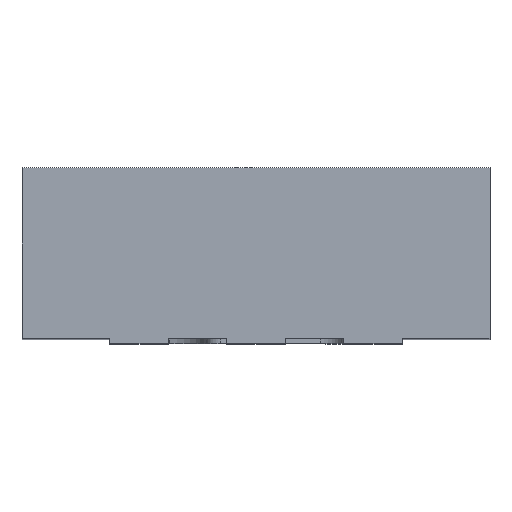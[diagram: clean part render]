
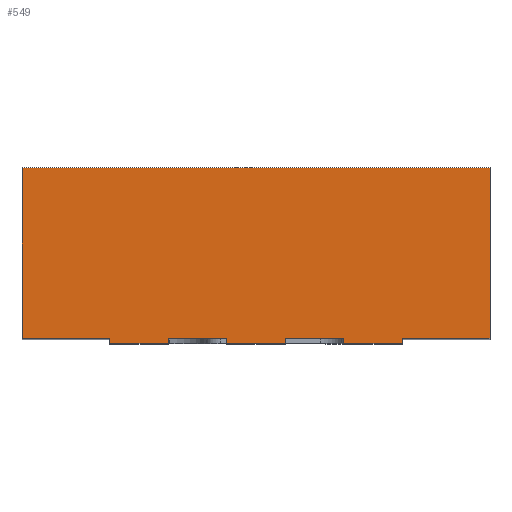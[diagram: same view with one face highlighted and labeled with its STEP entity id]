
A CAD part, top view. The second image highlights one B-rep face of the part: STEP entity #549.
In plain terms, the highlighted planar face has unit normal (0, 0, 1).
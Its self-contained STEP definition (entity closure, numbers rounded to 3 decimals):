
#5 = EDGE_CURVE ( 'NONE', #948, #1021, #486, .T. ) ;
#17 = CARTESIAN_POINT ( 'NONE',  ( 0.375, -0.107, 1.5 ) ) ;
#20 = ORIENTED_EDGE ( 'NONE', *, *, #891, .F. ) ;
#21 = AXIS2_PLACEMENT_3D ( 'NONE', #393, #940, #1361 ) ;
#50 = LINE ( 'NONE', #1126, #636 ) ;
#58 = CARTESIAN_POINT ( 'NONE',  ( 0.125, -0.107, 1.5 ) ) ;
#63 = DIRECTION ( 'NONE',  ( 0., -1., 0. ) ) ;
#76 = PLANE ( 'NONE',  #21 ) ;
#77 = CARTESIAN_POINT ( 'NONE',  ( 0., -0.127, 1.5 ) ) ;
#95 = EDGE_CURVE ( 'NONE', #1185, #790, #1047, .T. ) ;
#109 = LINE ( 'NONE', #638, #783 ) ;
#130 = CARTESIAN_POINT ( 'NONE',  ( 0.625, -0.107, 1.5 ) ) ;
#136 = CARTESIAN_POINT ( 'NONE',  ( -1., -0.107, 1.5 ) ) ;
#148 = CARTESIAN_POINT ( 'NONE',  ( 1., 0.623, 1.5 ) ) ;
#154 = DIRECTION ( 'NONE',  ( 0., -1., 0. ) ) ;
#164 = VECTOR ( 'NONE', #1049, 1000. ) ;
#165 = CARTESIAN_POINT ( 'NONE',  ( -1., 0.623, 1.5 ) ) ;
#167 = EDGE_CURVE ( 'NONE', #498, #203, #216, .T. ) ;
#172 = VECTOR ( 'NONE', #63, 1000. ) ;
#177 = LINE ( 'NONE', #1237, #231 ) ;
#185 = EDGE_CURVE ( 'NONE', #1191, #1282, #1195, .T. ) ;
#186 = LINE ( 'NONE', #824, #823 ) ;
#202 = EDGE_CURVE ( 'NONE', #1021, #242, #872, .T. ) ;
#203 = VERTEX_POINT ( 'NONE', #442 ) ;
#208 = DIRECTION ( 'NONE',  ( 0., -1., 0. ) ) ;
#209 = ORIENTED_EDGE ( 'NONE', *, *, #167, .T. ) ;
#216 = LINE ( 'NONE', #644, #743 ) ;
#221 = EDGE_CURVE ( 'NONE', #1262, #1185, #109, .T. ) ;
#230 = ORIENTED_EDGE ( 'NONE', *, *, #1379, .T. ) ;
#231 = VECTOR ( 'NONE', #507, 1000. ) ;
#242 = VERTEX_POINT ( 'NONE', #540 ) ;
#265 = CARTESIAN_POINT ( 'NONE',  ( 0.625, -0.127, 1.5 ) ) ;
#335 = ORIENTED_EDGE ( 'NONE', *, *, #95, .T. ) ;
#355 = CARTESIAN_POINT ( 'NONE',  ( -1., -0.107, 1.5 ) ) ;
#368 = CARTESIAN_POINT ( 'NONE',  ( 1., 0.623, 1.5 ) ) ;
#382 = DIRECTION ( 'NONE',  ( 1., 0., 0. ) ) ;
#393 = CARTESIAN_POINT ( 'NONE',  ( -1., 0.623, 1.5 ) ) ;
#398 = DIRECTION ( 'NONE',  ( 1., 0., 0. ) ) ;
#409 = ORIENTED_EDGE ( 'NONE', *, *, #221, .T. ) ;
#429 = EDGE_CURVE ( 'NONE', #1282, #1363, #50, .T. ) ;
#435 = VECTOR ( 'NONE', #1384, 1000. ) ;
#438 = VERTEX_POINT ( 'NONE', #130 ) ;
#442 = CARTESIAN_POINT ( 'NONE',  ( 0.375, -0.127, 1.5 ) ) ;
#448 = CARTESIAN_POINT ( 'NONE',  ( -0.125, -0.107, 1.5 ) ) ;
#471 = ORIENTED_EDGE ( 'NONE', *, *, #514, .F. ) ;
#486 = LINE ( 'NONE', #501, #172 ) ;
#487 = EDGE_CURVE ( 'NONE', #1191, #1222, #780, .T. ) ;
#496 = VECTOR ( 'NONE', #602, 1000. ) ;
#498 = VERTEX_POINT ( 'NONE', #17 ) ;
#501 = CARTESIAN_POINT ( 'NONE',  ( -0.625, 0.127, 1.5 ) ) ;
#503 = LINE ( 'NONE', #1344, #496 ) ;
#507 = DIRECTION ( 'NONE',  ( -1., 0., 0. ) ) ;
#514 = EDGE_CURVE ( 'NONE', #1262, #889, #561, .T. ) ;
#540 = CARTESIAN_POINT ( 'NONE',  ( -0.375, -0.127, 1.5 ) ) ;
#549 = ADVANCED_FACE ( 'NONE', ( #924 ), #76, .T. ) ;
#557 = ORIENTED_EDGE ( 'NONE', *, *, #5, .T. ) ;
#561 = LINE ( 'NONE', #355, #997 ) ;
#571 = EDGE_CURVE ( 'NONE', #1222, #438, #177, .T. ) ;
#602 = DIRECTION ( 'NONE',  ( 0., -1., 0. ) ) ;
#610 = LINE ( 'NONE', #1352, #640 ) ;
#618 = CARTESIAN_POINT ( 'NONE',  ( 0.125, 0.127, 1.5 ) ) ;
#631 = ORIENTED_EDGE ( 'NONE', *, *, #1358, .F. ) ;
#636 = VECTOR ( 'NONE', #1322, 1000. ) ;
#638 = CARTESIAN_POINT ( 'NONE',  ( -0.125, 0.127, 1.5 ) ) ;
#640 = VECTOR ( 'NONE', #929, 1000. ) ;
#644 = CARTESIAN_POINT ( 'NONE',  ( 0.375, 0.127, 1.5 ) ) ;
#665 = CARTESIAN_POINT ( 'NONE',  ( 0., -0.127, 1.5 ) ) ;
#671 = CARTESIAN_POINT ( 'NONE',  ( 0.125, -0.127, 1.5 ) ) ;
#688 = CARTESIAN_POINT ( 'NONE',  ( -1., -0.107, 1.5 ) ) ;
#699 = CARTESIAN_POINT ( 'NONE',  ( -0.625, -0.107, 1.5 ) ) ;
#743 = VECTOR ( 'NONE', #208, 1000. ) ;
#780 = LINE ( 'NONE', #148, #1263 ) ;
#783 = VECTOR ( 'NONE', #1070, 1000. ) ;
#785 = ORIENTED_EDGE ( 'NONE', *, *, #202, .T. ) ;
#788 = EDGE_LOOP ( 'NONE', ( #20, #557, #785, #826, #471, #409, #335, #1095, #1084, #209, #230, #631, #1257, #1050, #1319, #1035 ) ) ;
#790 = VERTEX_POINT ( 'NONE', #671 ) ;
#792 = VECTOR ( 'NONE', #1218, 1000. ) ;
#813 = VECTOR ( 'NONE', #1028, 1000. ) ;
#820 = CARTESIAN_POINT ( 'NONE',  ( -0.625, -0.127, 1.5 ) ) ;
#823 = VECTOR ( 'NONE', #382, 1000. ) ;
#824 = CARTESIAN_POINT ( 'NONE',  ( 0., -0.127, 1.5 ) ) ;
#826 = ORIENTED_EDGE ( 'NONE', *, *, #1341, .F. ) ;
#845 = LINE ( 'NONE', #618, #164 ) ;
#846 = VERTEX_POINT ( 'NONE', #265 ) ;
#867 = CARTESIAN_POINT ( 'NONE',  ( -1., 0.623, 1.5 ) ) ;
#872 = LINE ( 'NONE', #665, #1376 ) ;
#889 = VERTEX_POINT ( 'NONE', #1327 ) ;
#891 = EDGE_CURVE ( 'NONE', #948, #1363, #1131, .T. ) ;
#909 = EDGE_CURVE ( 'NONE', #498, #1338, #1320, .T. ) ;
#924 = FACE_OUTER_BOUND ( 'NONE', #788, .T. ) ;
#929 = DIRECTION ( 'NONE',  ( 0., -1., 0. ) ) ;
#940 = DIRECTION ( 'NONE',  ( 0., 0., 1. ) ) ;
#948 = VERTEX_POINT ( 'NONE', #699 ) ;
#989 = DIRECTION ( 'NONE',  ( 1., 0., 0. ) ) ;
#997 = VECTOR ( 'NONE', #1133, 1000. ) ;
#1021 = VERTEX_POINT ( 'NONE', #820 ) ;
#1027 = VECTOR ( 'NONE', #398, 1000. ) ;
#1028 = DIRECTION ( 'NONE',  ( -1., 0., 0. ) ) ;
#1035 = ORIENTED_EDGE ( 'NONE', *, *, #429, .T. ) ;
#1047 = LINE ( 'NONE', #77, #1027 ) ;
#1049 = DIRECTION ( 'NONE',  ( 0., -1., 0. ) ) ;
#1050 = ORIENTED_EDGE ( 'NONE', *, *, #487, .F. ) ;
#1055 = CARTESIAN_POINT ( 'NONE',  ( -1., -0.107, 1.5 ) ) ;
#1070 = DIRECTION ( 'NONE',  ( 0., -1., 0. ) ) ;
#1084 = ORIENTED_EDGE ( 'NONE', *, *, #909, .F. ) ;
#1095 = ORIENTED_EDGE ( 'NONE', *, *, #1303, .F. ) ;
#1126 = CARTESIAN_POINT ( 'NONE',  ( -1., 0.623, 1.5 ) ) ;
#1131 = LINE ( 'NONE', #136, #792 ) ;
#1133 = DIRECTION ( 'NONE',  ( -1., 0., 0. ) ) ;
#1135 = CARTESIAN_POINT ( 'NONE',  ( 1., -0.107, 1.5 ) ) ;
#1185 = VERTEX_POINT ( 'NONE', #1205 ) ;
#1191 = VERTEX_POINT ( 'NONE', #368 ) ;
#1195 = LINE ( 'NONE', #867, #435 ) ;
#1205 = CARTESIAN_POINT ( 'NONE',  ( -0.125, -0.127, 1.5 ) ) ;
#1218 = DIRECTION ( 'NONE',  ( -1., 0., 0. ) ) ;
#1222 = VERTEX_POINT ( 'NONE', #1135 ) ;
#1237 = CARTESIAN_POINT ( 'NONE',  ( -1., -0.107, 1.5 ) ) ;
#1257 = ORIENTED_EDGE ( 'NONE', *, *, #571, .F. ) ;
#1262 = VERTEX_POINT ( 'NONE', #448 ) ;
#1263 = VECTOR ( 'NONE', #154, 1000. ) ;
#1282 = VERTEX_POINT ( 'NONE', #165 ) ;
#1303 = EDGE_CURVE ( 'NONE', #1338, #790, #845, .T. ) ;
#1319 = ORIENTED_EDGE ( 'NONE', *, *, #185, .T. ) ;
#1320 = LINE ( 'NONE', #688, #813 ) ;
#1322 = DIRECTION ( 'NONE',  ( 0., -1., 0. ) ) ;
#1327 = CARTESIAN_POINT ( 'NONE',  ( -0.375, -0.107, 1.5 ) ) ;
#1338 = VERTEX_POINT ( 'NONE', #58 ) ;
#1341 = EDGE_CURVE ( 'NONE', #889, #242, #503, .T. ) ;
#1344 = CARTESIAN_POINT ( 'NONE',  ( -0.375, 0.127, 1.5 ) ) ;
#1352 = CARTESIAN_POINT ( 'NONE',  ( 0.625, 0.127, 1.5 ) ) ;
#1358 = EDGE_CURVE ( 'NONE', #438, #846, #610, .T. ) ;
#1361 = DIRECTION ( 'NONE',  ( 1., 0., 0. ) ) ;
#1363 = VERTEX_POINT ( 'NONE', #1055 ) ;
#1376 = VECTOR ( 'NONE', #989, 1000. ) ;
#1379 = EDGE_CURVE ( 'NONE', #203, #846, #186, .T. ) ;
#1384 = DIRECTION ( 'NONE',  ( -1., 0., 0. ) ) ;
